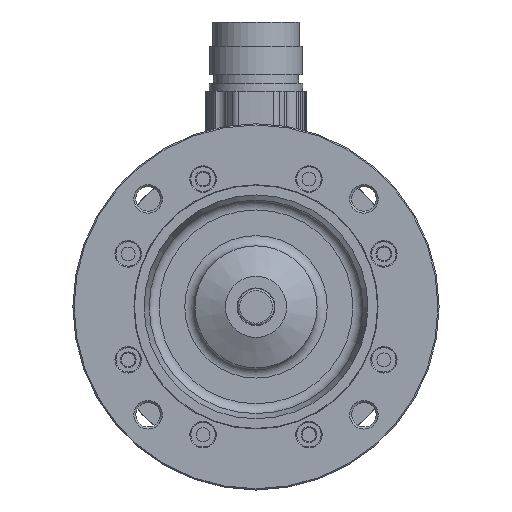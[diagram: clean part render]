
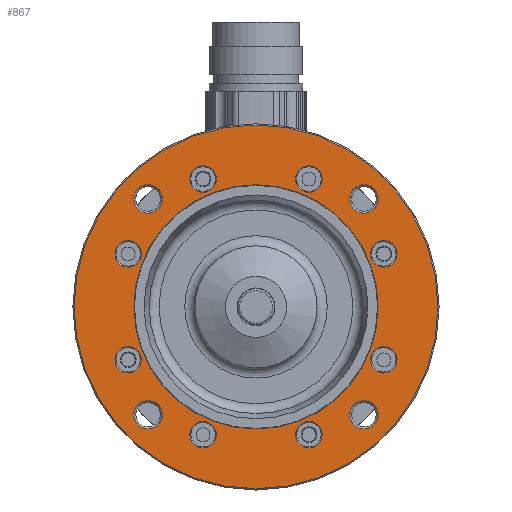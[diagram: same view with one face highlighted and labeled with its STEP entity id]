
A CAD part, front view. The second image highlights one B-rep face of the part: STEP entity #867.
In plain terms, the highlighted planar face has unit normal (0, -1, 0).
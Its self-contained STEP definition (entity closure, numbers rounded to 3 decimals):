
#357=PLANE('',#4968);
#445=FACE_BOUND('',#1595,.T.);
#446=FACE_BOUND('',#1596,.T.);
#447=FACE_BOUND('',#1597,.T.);
#448=FACE_BOUND('',#1598,.T.);
#449=FACE_BOUND('',#1599,.T.);
#450=FACE_BOUND('',#1600,.T.);
#451=FACE_BOUND('',#1601,.T.);
#452=FACE_BOUND('',#1602,.T.);
#453=FACE_BOUND('',#1603,.T.);
#454=FACE_BOUND('',#1604,.T.);
#455=FACE_BOUND('',#1605,.T.);
#456=FACE_BOUND('',#1606,.T.);
#457=FACE_BOUND('',#1607,.T.);
#867=ADVANCED_FACE('',(#1371,#445,#446,#447,#448,#449,#450,#451,#452,#453,
#454,#455,#456,#457),#357,.T.);
#1371=FACE_OUTER_BOUND('',#1594,.T.);
#1594=EDGE_LOOP('',(#2687));
#1595=EDGE_LOOP('',(#2688));
#1596=EDGE_LOOP('',(#2689));
#1597=EDGE_LOOP('',(#2690));
#1598=EDGE_LOOP('',(#2691));
#1599=EDGE_LOOP('',(#2692));
#1600=EDGE_LOOP('',(#2693));
#1601=EDGE_LOOP('',(#2694));
#1602=EDGE_LOOP('',(#2695));
#1603=EDGE_LOOP('',(#2696));
#1604=EDGE_LOOP('',(#2697));
#1605=EDGE_LOOP('',(#2698));
#1606=EDGE_LOOP('',(#2699));
#1607=EDGE_LOOP('',(#2700));
#2242=CIRCLE('',#4954,44.7);
#2243=CIRCLE('',#4955,3.25);
#2244=CIRCLE('',#4956,3.25);
#2245=CIRCLE('',#4957,3.25);
#2246=CIRCLE('',#4958,3.25);
#2247=CIRCLE('',#4959,3.25);
#2248=CIRCLE('',#4960,3.25);
#2249=CIRCLE('',#4961,3.25);
#2250=CIRCLE('',#4962,3.25);
#2251=CIRCLE('',#4963,3.5);
#2252=CIRCLE('',#4964,3.5);
#2253=CIRCLE('',#4965,3.5);
#2254=CIRCLE('',#4966,3.5);
#2255=CIRCLE('',#4967,30.);
#2687=ORIENTED_EDGE('',*,*,#4217,.T.);
#2688=ORIENTED_EDGE('',*,*,#4218,.T.);
#2689=ORIENTED_EDGE('',*,*,#4219,.T.);
#2690=ORIENTED_EDGE('',*,*,#4220,.T.);
#2691=ORIENTED_EDGE('',*,*,#4221,.T.);
#2692=ORIENTED_EDGE('',*,*,#4222,.T.);
#2693=ORIENTED_EDGE('',*,*,#4223,.T.);
#2694=ORIENTED_EDGE('',*,*,#4224,.T.);
#2695=ORIENTED_EDGE('',*,*,#4225,.T.);
#2696=ORIENTED_EDGE('',*,*,#4226,.T.);
#2697=ORIENTED_EDGE('',*,*,#4227,.T.);
#2698=ORIENTED_EDGE('',*,*,#4228,.T.);
#2699=ORIENTED_EDGE('',*,*,#4229,.T.);
#2700=ORIENTED_EDGE('',*,*,#4230,.F.);
#3765=VERTEX_POINT('',#7418);
#3766=VERTEX_POINT('',#7420);
#3767=VERTEX_POINT('',#7422);
#3768=VERTEX_POINT('',#7424);
#3769=VERTEX_POINT('',#7426);
#3770=VERTEX_POINT('',#7428);
#3771=VERTEX_POINT('',#7430);
#3772=VERTEX_POINT('',#7432);
#3773=VERTEX_POINT('',#7434);
#3774=VERTEX_POINT('',#7436);
#3775=VERTEX_POINT('',#7438);
#3776=VERTEX_POINT('',#7440);
#3777=VERTEX_POINT('',#7442);
#3778=VERTEX_POINT('',#7444);
#4217=EDGE_CURVE('',#3765,#3765,#2242,.T.);
#4218=EDGE_CURVE('',#3766,#3766,#2243,.T.);
#4219=EDGE_CURVE('',#3767,#3767,#2244,.T.);
#4220=EDGE_CURVE('',#3768,#3768,#2245,.T.);
#4221=EDGE_CURVE('',#3769,#3769,#2246,.T.);
#4222=EDGE_CURVE('',#3770,#3770,#2247,.T.);
#4223=EDGE_CURVE('',#3771,#3771,#2248,.T.);
#4224=EDGE_CURVE('',#3772,#3772,#2249,.T.);
#4225=EDGE_CURVE('',#3773,#3773,#2250,.T.);
#4226=EDGE_CURVE('',#3774,#3774,#2251,.T.);
#4227=EDGE_CURVE('',#3775,#3775,#2252,.T.);
#4228=EDGE_CURVE('',#3776,#3776,#2253,.T.);
#4229=EDGE_CURVE('',#3777,#3777,#2254,.T.);
#4230=EDGE_CURVE('',#3778,#3778,#2255,.T.);
#4954=AXIS2_PLACEMENT_3D('',#7417,#5761,#5762);
#4955=AXIS2_PLACEMENT_3D('',#7419,#5763,#5764);
#4956=AXIS2_PLACEMENT_3D('',#7421,#5765,#5766);
#4957=AXIS2_PLACEMENT_3D('',#7423,#5767,#5768);
#4958=AXIS2_PLACEMENT_3D('',#7425,#5769,#5770);
#4959=AXIS2_PLACEMENT_3D('',#7427,#5771,#5772);
#4960=AXIS2_PLACEMENT_3D('',#7429,#5773,#5774);
#4961=AXIS2_PLACEMENT_3D('',#7431,#5775,#5776);
#4962=AXIS2_PLACEMENT_3D('',#7433,#5777,#5778);
#4963=AXIS2_PLACEMENT_3D('',#7435,#5779,#5780);
#4964=AXIS2_PLACEMENT_3D('',#7437,#5781,#5782);
#4965=AXIS2_PLACEMENT_3D('',#7439,#5783,#5784);
#4966=AXIS2_PLACEMENT_3D('',#7441,#5785,#5786);
#4967=AXIS2_PLACEMENT_3D('',#7443,#5787,#5788);
#4968=AXIS2_PLACEMENT_3D('',#7445,#5789,#5790);
#5761=DIRECTION('',(0.,-1.,0.));
#5762=DIRECTION('',(0.,0.,-1.));
#5763=DIRECTION('',(0.,1.,0.));
#5764=DIRECTION('',(0.,0.,-1.));
#5765=DIRECTION('',(0.,1.,0.));
#5766=DIRECTION('',(0.,0.,-1.));
#5767=DIRECTION('',(0.,1.,0.));
#5768=DIRECTION('',(0.,0.,-1.));
#5769=DIRECTION('',(0.,1.,0.));
#5770=DIRECTION('',(0.,0.,-1.));
#5771=DIRECTION('',(0.,1.,0.));
#5772=DIRECTION('',(0.,0.,-1.));
#5773=DIRECTION('',(0.,1.,0.));
#5774=DIRECTION('',(0.,0.,-1.));
#5775=DIRECTION('',(0.,1.,0.));
#5776=DIRECTION('',(0.,0.,-1.));
#5777=DIRECTION('',(0.,1.,0.));
#5778=DIRECTION('',(0.,0.,-1.));
#5779=DIRECTION('',(0.,1.,0.));
#5780=DIRECTION('',(0.,0.,-1.));
#5781=DIRECTION('',(0.,1.,0.));
#5782=DIRECTION('',(0.,0.,-1.));
#5783=DIRECTION('',(0.,1.,0.));
#5784=DIRECTION('',(0.,0.,-1.));
#5785=DIRECTION('',(0.,1.,0.));
#5786=DIRECTION('',(0.,0.,-1.));
#5787=DIRECTION('',(0.,-1.,0.));
#5788=DIRECTION('',(0.,0.,-1.));
#5789=DIRECTION('',(0.,-1.,0.));
#5790=DIRECTION('',(0.,0.,-1.));
#7417=CARTESIAN_POINT('',(0.,0.,0.));
#7418=CARTESIAN_POINT('',(0.,0.,-44.7));
#7419=CARTESIAN_POINT('',(13.011,0.,31.412));
#7420=CARTESIAN_POINT('',(13.011,0.,28.162));
#7421=CARTESIAN_POINT('',(-31.412,0.,13.011));
#7422=CARTESIAN_POINT('',(-31.412,0.,9.761));
#7423=CARTESIAN_POINT('',(31.412,0.,-13.011));
#7424=CARTESIAN_POINT('',(31.412,0.,-16.261));
#7425=CARTESIAN_POINT('',(-13.011,0.,-31.412));
#7426=CARTESIAN_POINT('',(-13.011,0.,-34.662));
#7427=CARTESIAN_POINT('',(-31.412,0.,-13.011));
#7428=CARTESIAN_POINT('',(-31.412,0.,-16.261));
#7429=CARTESIAN_POINT('',(31.412,0.,13.011));
#7430=CARTESIAN_POINT('',(31.412,0.,9.761));
#7431=CARTESIAN_POINT('',(13.011,0.,-31.412));
#7432=CARTESIAN_POINT('',(13.011,0.,-34.662));
#7433=CARTESIAN_POINT('',(-13.011,0.,31.412));
#7434=CARTESIAN_POINT('',(-13.011,0.,28.162));
#7435=CARTESIAN_POINT('',(26.517,0.,26.517));
#7436=CARTESIAN_POINT('',(26.517,0.,23.017));
#7437=CARTESIAN_POINT('',(-26.517,0.,26.517));
#7438=CARTESIAN_POINT('',(-26.517,0.,23.017));
#7439=CARTESIAN_POINT('',(26.517,0.,-26.517));
#7440=CARTESIAN_POINT('',(26.517,0.,-30.017));
#7441=CARTESIAN_POINT('',(-26.517,0.,-26.517));
#7442=CARTESIAN_POINT('',(-26.517,0.,-30.017));
#7443=CARTESIAN_POINT('',(0.,0.,0.));
#7444=CARTESIAN_POINT('',(0.,0.,-30.));
#7445=CARTESIAN_POINT('',(0.,0.,0.));
